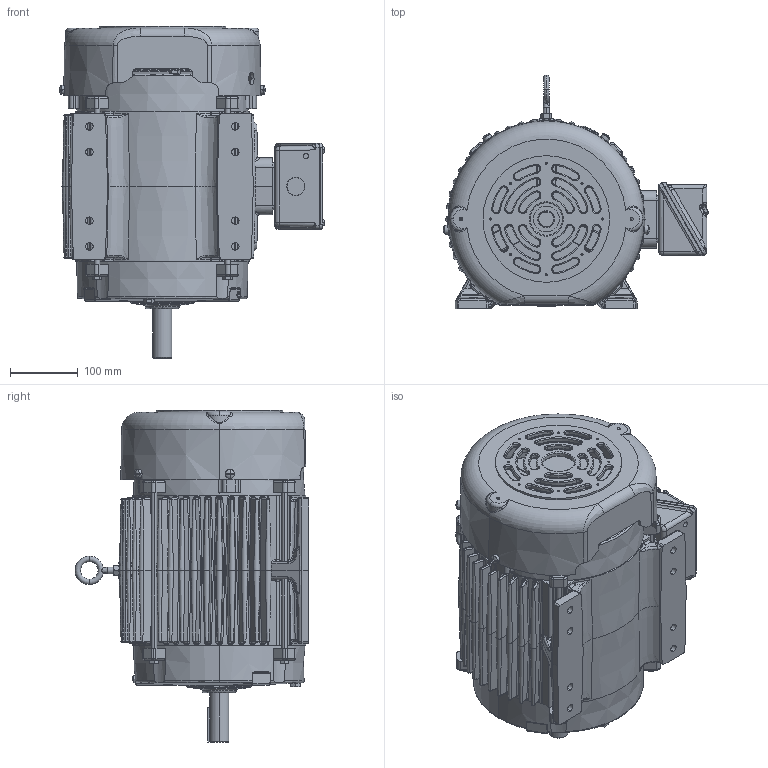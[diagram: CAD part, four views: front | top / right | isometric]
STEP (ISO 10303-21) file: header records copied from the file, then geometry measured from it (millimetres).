
FILE_DESCRIPTION (( 'STEP AP203' ), '1' );
FILE_NAME ('SS88189-875_Rev02.STEP', '2019-01-02T09:03:59', ( '' ), ( '' ), 'SwSTEP 2.0', 'SolidWorks 2015', '' );
FILE_SCHEMA (( 'CONFIG_CONTROL_DESIGN' ));
Products named in the file (1): SS88189-875_Rev02
Bounding box: 393.13 x 346.09 x 491.33 mm (x, y, z)
Volume: 6385643.6 mm3; surface area: 1557334.3 mm2
Topology: 30 solids, 30 shells, 3100 faces, 7616 edges, 4520 vertices
Faces by surface type: bspline 810, cylinder 764, plane 700, torus 400, cone 364, sphere 62
Entity records: 132336 total; most frequent: CARTESIAN_POINT 66082, ORIENTED_EDGE 14966, DIRECTION 12619, EDGE_CURVE 7483, AXIS2_PLACEMENT_3D 5321, VERTEX_POINT 4520, EDGE_LOOP 3323, FACE_OUTER_BOUND 3100
